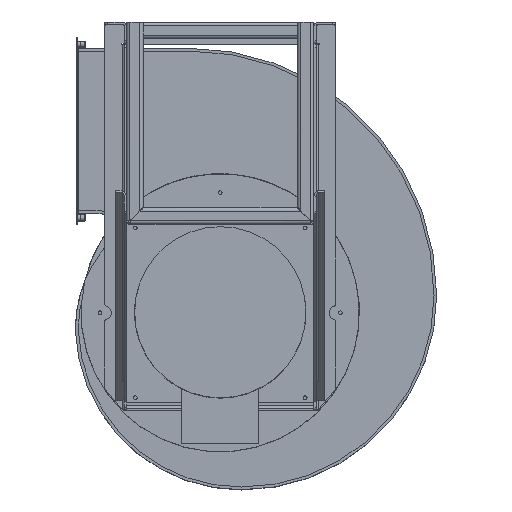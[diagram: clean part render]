
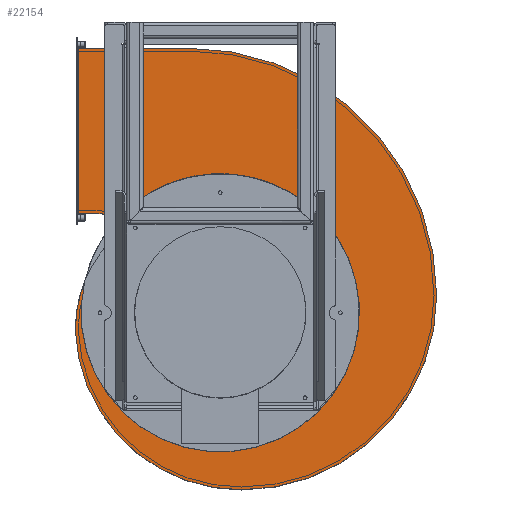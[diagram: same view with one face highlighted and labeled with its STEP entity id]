
A CAD part, top view. The second image highlights one B-rep face of the part: STEP entity #22154.
In plain terms, the highlighted planar face has unit normal (0, 0, 1).
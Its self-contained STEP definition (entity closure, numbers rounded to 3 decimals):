
#446=CIRCLE('',#23104,9.941);
#529=CIRCLE('',#23290,1.122);
#530=CIRCLE('',#23292,9.173);
#531=CIRCLE('',#23294,11.843);
#532=CIRCLE('',#23296,13.909);
#533=CIRCLE('',#23298,17.654);
#1559=PLANE('',#23382);
#2709=FACE_OUTER_BOUND('',#4096,.T.);
#4096=EDGE_LOOP('',(#20059,#20060,#20061,#20062,#20063,#20064,#20065,#20066,
#20067));
#5892=LINE('',#43171,#7538);
#5931=LINE('',#43258,#7577);
#5937=LINE('',#43279,#7583);
#7538=VECTOR('',#26990,11.811);
#7577=VECTOR('',#27069,1.557);
#7583=VECTOR('',#27097,7.954);
#10457=VERTEX_POINT('',#41878);
#10458=VERTEX_POINT('',#41880);
#10634=VERTEX_POINT('',#43168);
#10635=VERTEX_POINT('',#43170);
#10663=VERTEX_POINT('',#43256);
#10664=VERTEX_POINT('',#43263);
#10665=VERTEX_POINT('',#43267);
#10666=VERTEX_POINT('',#43271);
#10667=VERTEX_POINT('',#43275);
#13503=EDGE_CURVE('',#10457,#10458,#446,.T.);
#13753=EDGE_CURVE('',#10635,#10634,#5892,.T.);
#13797=EDGE_CURVE('',#10663,#10634,#5931,.T.);
#13798=EDGE_CURVE('',#10457,#10663,#529,.T.);
#13800=EDGE_CURVE('',#10664,#10458,#530,.T.);
#13802=EDGE_CURVE('',#10665,#10664,#531,.T.);
#13804=EDGE_CURVE('',#10666,#10665,#532,.T.);
#13806=EDGE_CURVE('',#10667,#10666,#533,.T.);
#13808=EDGE_CURVE('',#10635,#10667,#5937,.T.);
#20059=ORIENTED_EDGE('',*,*,#13753,.T.);
#20060=ORIENTED_EDGE('',*,*,#13797,.F.);
#20061=ORIENTED_EDGE('',*,*,#13798,.F.);
#20062=ORIENTED_EDGE('',*,*,#13503,.T.);
#20063=ORIENTED_EDGE('',*,*,#13800,.F.);
#20064=ORIENTED_EDGE('',*,*,#13802,.F.);
#20065=ORIENTED_EDGE('',*,*,#13804,.F.);
#20066=ORIENTED_EDGE('',*,*,#13806,.F.);
#20067=ORIENTED_EDGE('',*,*,#13808,.F.);
#22154=ADVANCED_FACE('',(#2709),#1559,.T.);
#23104=AXIS2_PLACEMENT_3D('',#41899,#26522,#26523);
#23290=AXIS2_PLACEMENT_3D('',#43260,#27072,#27073);
#23292=AXIS2_PLACEMENT_3D('',#43264,#27077,#27078);
#23294=AXIS2_PLACEMENT_3D('',#43268,#27082,#27083);
#23296=AXIS2_PLACEMENT_3D('',#43272,#27087,#27088);
#23298=AXIS2_PLACEMENT_3D('',#43276,#27092,#27093);
#23382=AXIS2_PLACEMENT_3D('',#43505,#27347,#27348);
#26522=DIRECTION('center_axis',(0.,0.,-1.));
#26523=DIRECTION('ref_axis',(-1.,0.,0.));
#26990=DIRECTION('',(0.,-1.,0.));
#27069=DIRECTION('',(-1.,0.,0.));
#27072=DIRECTION('center_axis',(0.,0.,1.));
#27073=DIRECTION('ref_axis',(-0.684,0.729,0.));
#27077=DIRECTION('center_axis',(0.,0.,-1.));
#27078=DIRECTION('ref_axis',(-0.724,0.69,0.));
#27082=DIRECTION('center_axis',(0.,0.,-1.));
#27083=DIRECTION('ref_axis',(-0.999,-0.037,0.));
#27087=DIRECTION('center_axis',(0.,0.,-1.));
#27088=DIRECTION('ref_axis',(-0.003,-1.,0.));
#27092=DIRECTION('center_axis',(0.,0.,-1.));
#27093=DIRECTION('ref_axis',(1.,0.001,0.));
#27097=DIRECTION('',(1.,0.,0.));
#27347=DIRECTION('center_axis',(0.,0.,1.));
#27348=DIRECTION('ref_axis',(1.,0.,0.));
#41878=CARTESIAN_POINT('',(-12.565,5.965,4.803));
#41880=CARTESIAN_POINT('',(-14.666,1.808,4.803));
#41899=CARTESIAN_POINT('Origin',(-4.991,-0.474,4.803));
#43168=CARTESIAN_POINT('',(-15.138,6.612,4.803));
#43170=CARTESIAN_POINT('',(-15.138,18.424,4.803));
#43171=CARTESIAN_POINT('',(-15.138,15.471,4.803));
#43256=CARTESIAN_POINT('',(-13.581,6.612,4.803));
#43258=CARTESIAN_POINT('',(-15.227,6.612,4.803));
#43260=CARTESIAN_POINT('Origin',(-13.581,5.49,4.803));
#43263=CARTESIAN_POINT('',(-15.345,-1.714,4.803));
#43264=CARTESIAN_POINT('Origin',(-6.172,-1.655,4.803));
#43267=CARTESIAN_POINT('',(-3.476,-13.12,4.803));
#43268=CARTESIAN_POINT('Origin',(-3.51,-1.277,4.803));
#43271=CARTESIAN_POINT('',(10.47,0.78,4.803));
#43272=CARTESIAN_POINT('Origin',(-3.44,0.79,4.803));
#43275=CARTESIAN_POINT('',(-7.184,18.424,4.803));
#43276=CARTESIAN_POINT('Origin',(-7.184,0.77,4.803));
#43279=CARTESIAN_POINT('',(-7.184,18.424,4.803));
#43505=CARTESIAN_POINT('Origin',(-15.818,12.518,4.803));
